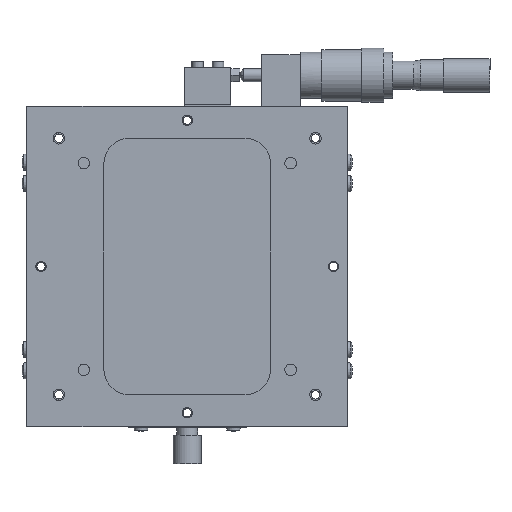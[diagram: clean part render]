
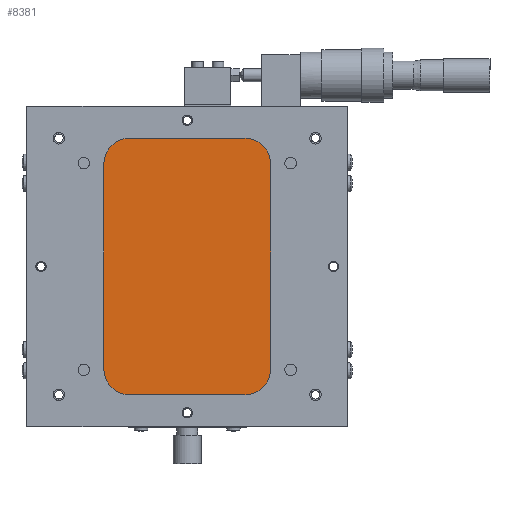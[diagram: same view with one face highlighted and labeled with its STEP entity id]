
A CAD part, front view. The second image highlights one B-rep face of the part: STEP entity #8381.
In plain terms, the highlighted planar face has unit normal (0, -1, 0).
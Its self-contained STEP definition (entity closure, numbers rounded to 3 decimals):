
#8121 = CARTESIAN_POINT ( 'NONE',  ( 22.5, 0.5, -50. ) ) ;
#8122 = DIRECTION ( 'NONE',  ( -1., 0., 0. ) ) ;
#8123 = VECTOR ( 'NONE', #8122, 1000. ) ;
#8124 = CARTESIAN_POINT ( 'NONE',  ( 22.5, 0.5, -50. ) ) ;
#8125 = LINE ( 'NONE', #8124, #8123 ) ;
#8126 = CARTESIAN_POINT ( 'NONE',  ( -32.5, 0.5, -40. ) ) ;
#8127 = CARTESIAN_POINT ( 'NONE',  ( -22.5, 0.5, -50. ) ) ;
#8128 = DIRECTION ( 'NONE',  ( 0., 0., 1. ) ) ;
#8129 = DIRECTION ( 'NONE',  ( 0., 1., 0. ) ) ;
#8130 = CARTESIAN_POINT ( 'NONE',  ( -22.5, 0.5, -40. ) ) ;
#8131 = AXIS2_PLACEMENT_3D ( 'NONE', #8130, #8129, #8128 ) ;
#8132 = CIRCLE ( 'NONE', #8131, 10. ) ;
#8133 = DIRECTION ( 'NONE',  ( 0., 0., 1. ) ) ;
#8134 = DIRECTION ( 'NONE',  ( 0., -1., 0. ) ) ;
#8135 = CARTESIAN_POINT ( 'NONE',  ( -22.5, 0.5, -40. ) ) ;
#8136 = AXIS2_PLACEMENT_3D ( 'NONE', #8135, #8134, #8133 ) ;
#8137 = PLANE ( 'NONE',  #8136 ) ;
#8138 = FACE_OUTER_BOUND ( 'NONE', #8382, .T. ) ;
#8188 = CARTESIAN_POINT ( 'NONE',  ( -32.5, 0.5, 40. ) ) ;
#8189 = DIRECTION ( 'NONE',  ( 0., 0., 1. ) ) ;
#8190 = DIRECTION ( 'NONE',  ( 0., 1., 0. ) ) ;
#8191 = CARTESIAN_POINT ( 'NONE',  ( -22.5, 0.5, 40. ) ) ;
#8192 = AXIS2_PLACEMENT_3D ( 'NONE', #8191, #8190, #8189 ) ;
#8193 = CIRCLE ( 'NONE', #8192, 10. ) ;
#8194 = CARTESIAN_POINT ( 'NONE',  ( -22.5, 0.5, 50. ) ) ;
#8195 = DIRECTION ( 'NONE',  ( 1., 0., 0. ) ) ;
#8196 = VECTOR ( 'NONE', #8195, 1000. ) ;
#8197 = CARTESIAN_POINT ( 'NONE',  ( 22.5, 0.5, 50. ) ) ;
#8198 = LINE ( 'NONE', #8197, #8196 ) ;
#8199 = CARTESIAN_POINT ( 'NONE',  ( 22.5, 0.5, 50. ) ) ;
#8200 = DIRECTION ( 'NONE',  ( 0., 0., 1. ) ) ;
#8201 = DIRECTION ( 'NONE',  ( 0., 1., 0. ) ) ;
#8202 = CARTESIAN_POINT ( 'NONE',  ( 22.5, 0.5, 40. ) ) ;
#8203 = AXIS2_PLACEMENT_3D ( 'NONE', #8202, #8201, #8200 ) ;
#8204 = CIRCLE ( 'NONE', #8203, 10. ) ;
#8205 = CARTESIAN_POINT ( 'NONE',  ( 32.5, 0.5, 40. ) ) ;
#8206 = DIRECTION ( 'NONE',  ( 0., 0., -1. ) ) ;
#8207 = VECTOR ( 'NONE', #8206, 1000. ) ;
#8208 = CARTESIAN_POINT ( 'NONE',  ( 32.5, 0.5, -40. ) ) ;
#8209 = LINE ( 'NONE', #8208, #8207 ) ;
#8210 = CARTESIAN_POINT ( 'NONE',  ( 32.5, 0.5, -40. ) ) ;
#8211 = DIRECTION ( 'NONE',  ( 0., 0., 1. ) ) ;
#8212 = DIRECTION ( 'NONE',  ( 0., 1., 0. ) ) ;
#8213 = AXIS2_PLACEMENT_3D ( 'NONE', #8243, #8212, #8211 ) ;
#8214 = CIRCLE ( 'NONE', #8213, 10. ) ;
#8243 = CARTESIAN_POINT ( 'NONE',  ( 22.5, 0.5, -40. ) ) ;
#8337 = EDGE_CURVE ( 'NONE', #8338, #8389, #8214, .T. ) ;
#8338 = VERTEX_POINT ( 'NONE', #8210 ) ;
#8339 = ORIENTED_EDGE ( 'NONE', *, *, #8340, .F. ) ;
#8340 = EDGE_CURVE ( 'NONE', #8341, #8338, #8209, .T. ) ;
#8341 = VERTEX_POINT ( 'NONE', #8205 ) ;
#8342 = ORIENTED_EDGE ( 'NONE', *, *, #8343, .F. ) ;
#8343 = EDGE_CURVE ( 'NONE', #8344, #8341, #8204, .T. ) ;
#8344 = VERTEX_POINT ( 'NONE', #8199 ) ;
#8345 = ORIENTED_EDGE ( 'NONE', *, *, #8346, .F. ) ;
#8346 = EDGE_CURVE ( 'NONE', #8347, #8344, #8198, .T. ) ;
#8347 = VERTEX_POINT ( 'NONE', #8194 ) ;
#8348 = ORIENTED_EDGE ( 'NONE', *, *, #8349, .F. ) ;
#8349 = EDGE_CURVE ( 'NONE', #8350, #8347, #8193, .T. ) ;
#8350 = VERTEX_POINT ( 'NONE', #8188 ) ;
#8351 = ORIENTED_EDGE ( 'NONE', *, *, #8457, .F. ) ;
#8381 = ADVANCED_FACE ( 'NONE', ( #8138 ), #8137, .T. ) ;
#8382 = EDGE_LOOP ( 'NONE', ( #8383, #8387, #8390, #8339, #8342, #8345, #8348, #8351 ) ) ;
#8383 = ORIENTED_EDGE ( 'NONE', *, *, #8384, .F. ) ;
#8384 = EDGE_CURVE ( 'NONE', #8385, #8386, #8132, .T. ) ;
#8385 = VERTEX_POINT ( 'NONE', #8127 ) ;
#8386 = VERTEX_POINT ( 'NONE', #8126 ) ;
#8387 = ORIENTED_EDGE ( 'NONE', *, *, #8388, .F. ) ;
#8388 = EDGE_CURVE ( 'NONE', #8389, #8385, #8125, .T. ) ;
#8389 = VERTEX_POINT ( 'NONE', #8121 ) ;
#8390 = ORIENTED_EDGE ( 'NONE', *, *, #8337, .F. ) ;
#8457 = EDGE_CURVE ( 'NONE', #8386, #8350, #8759, .T. ) ;
#8756 = DIRECTION ( 'NONE',  ( 0., 0., 1. ) ) ;
#8757 = VECTOR ( 'NONE', #8756, 1000. ) ;
#8758 = CARTESIAN_POINT ( 'NONE',  ( -32.5, 0.5, -40. ) ) ;
#8759 = LINE ( 'NONE', #8758, #8757 ) ;
